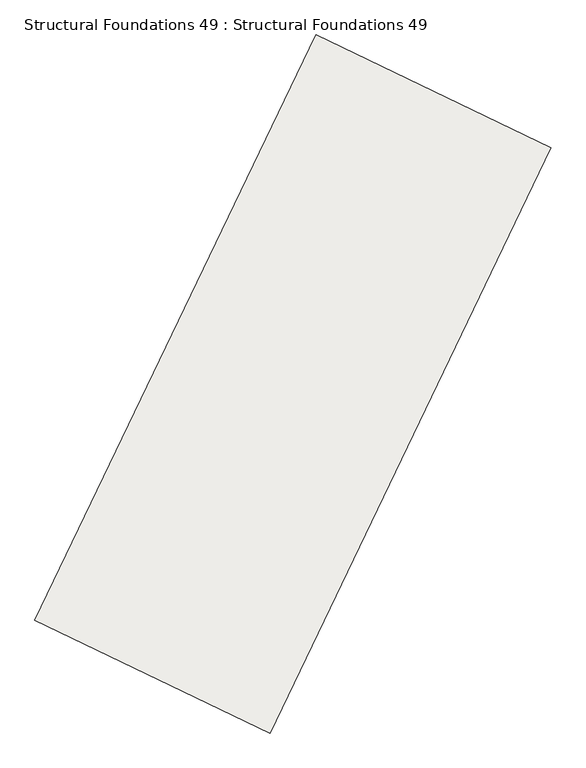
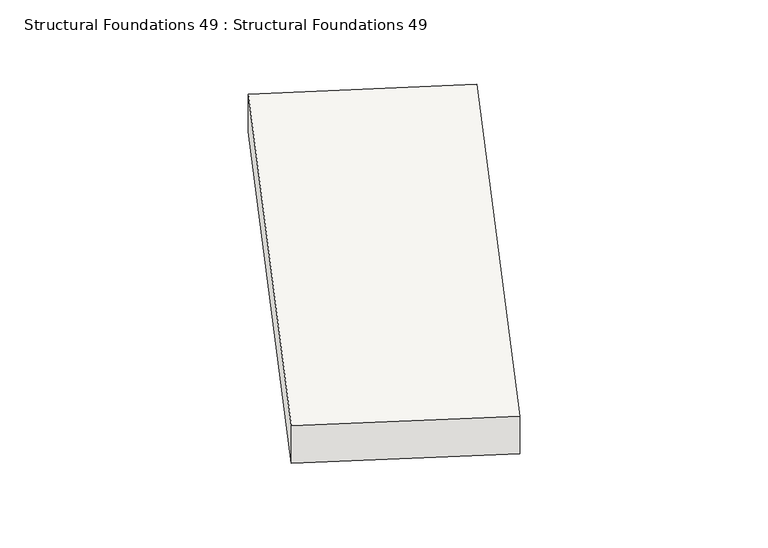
"""IFC4 building model written with IfcOpenShell, lengths in millimetres: slab geometry, Structural Foundations 49 : Structural Foundations 49."""

from ifc_helpers import new_model, si_unit, origin, place, context, project, spatial, faceted_brep, source, transform, mapped, element, save


def structural_foundations_49_structural_foundations_49_a658773e(model_context):
    return source(origin(), model_context, "Body", "Brep", [
        faceted_brep([(420162.1652092, 361539.3702476, 646090.0), (423317.0856357, 360023.9767651, 646090.0), (423317.0856357, 360023.9767651, 646790.0), (420162.1652092, 361539.3702476, 646790.0), (423930.4709813, 369380.9181953, 646210.0), (423930.4709813, 369380.9181953, 646910.0), (427085.3914078, 367865.5247128, 646910.0), (427085.3914078, 367865.5247128, 646210.0)], [[[0, 1, 2, 3]], [[4, 5, 6, 7]], [[4, 7, 1, 0]], [[7, 6, 2, 1]], [[6, 5, 3, 2]], [[5, 4, 0, 3]]]),
    ])


if __name__ == "__main__":
    model = new_model("IFC4")
    model_context = context("Model", 3, world=origin())
    ifc_project = project(units=[si_unit("LENGTHUNIT", "METRE", prefix="MILLI")], contexts=[model_context])
    site = spatial("IfcSite", under=ifc_project)
    building = spatial("IfcBuilding", under=site)
    placement = place(None, origin())
    structural_foundations_49_structural_foundations_49_shape = structural_foundations_49_structural_foundations_49_a658773e(model_context)
    element("IfcSlab", 1, ObjectType="Structural Foundations 49 : Structural Foundations 49", at=placement, inside=building, context=model_context, shape_type="MappedRepresentation", body=[
        mapped(structural_foundations_49_structural_foundations_49_shape, transform((0.0, 0.0, 0.0), x_axis=(1.0, 0.0, 0.0), y_axis=(0.0, 1.0, 0.0), z_axis=(0.0, 0.0, 1.0))),
    ])
    save(model, "model.ifc")
